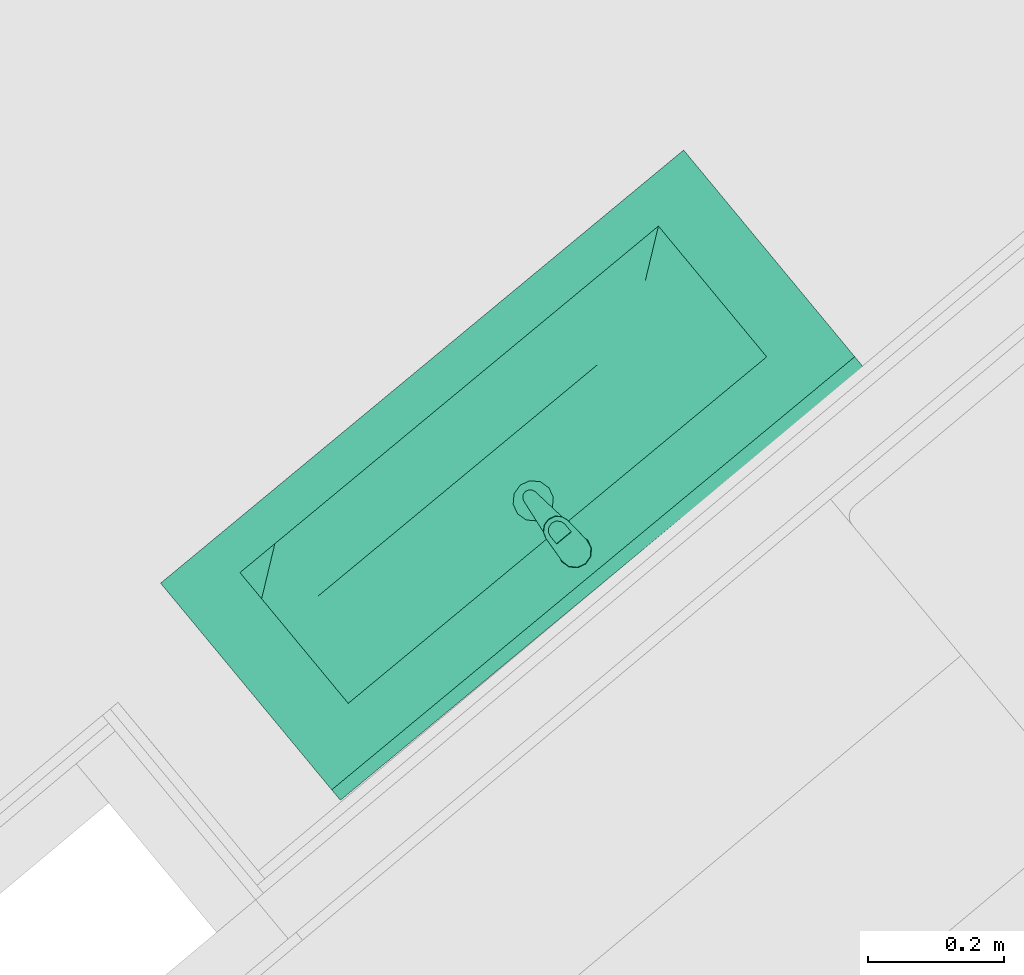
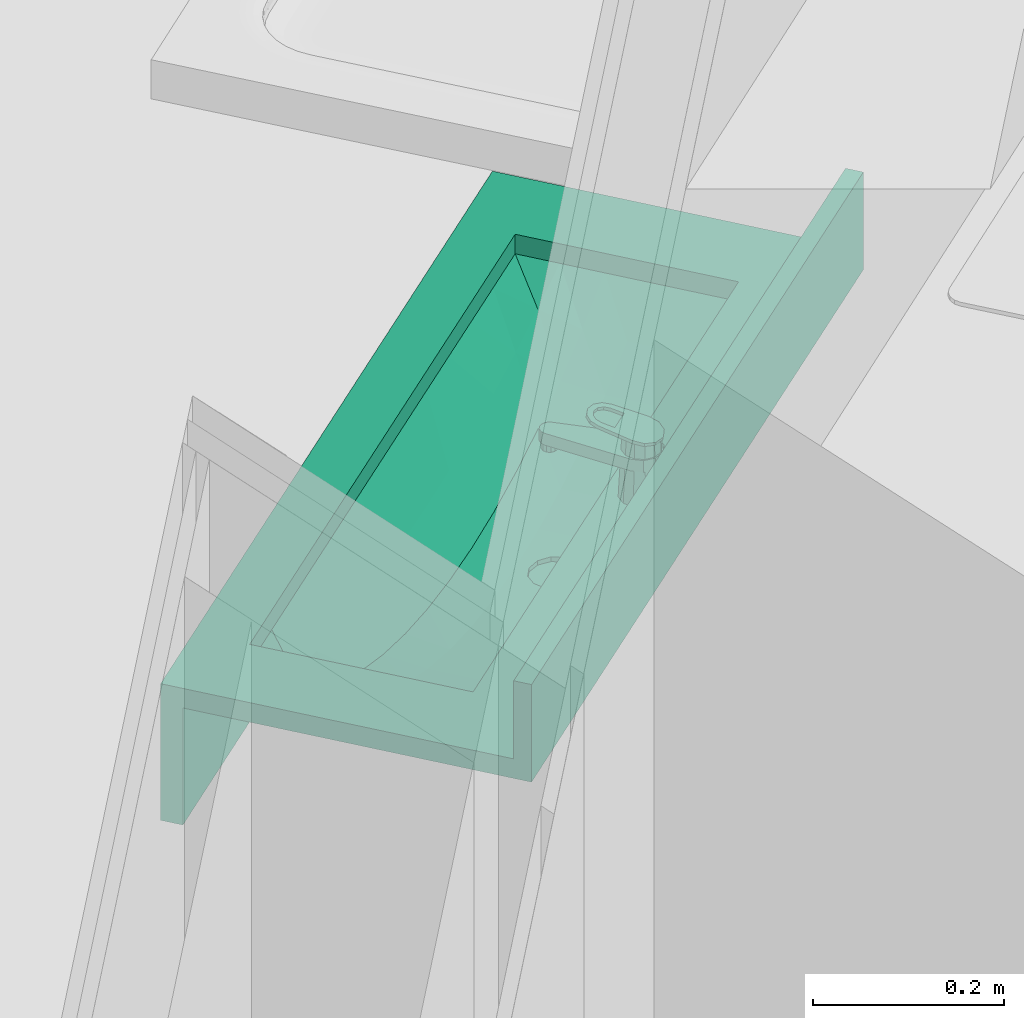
# One storey, part 47 of 50: 1 sanitary terminal.
"""IFC4 building model written with IfcOpenShell, lengths in metres."""

from ifc_helpers import new_model, entity, si_unit, converted_unit, derived_unit, direction, frame, origin_with_axes, place, context, subcontext, project, spatial, polygons, source, transform, mapped, type_object, element, save


model = new_model("IFC4")

# Units and contexts
model_context = context("Model", 3, precision=1e-05, world=origin_with_axes(), true_north=direction((0.0, 1.0)))
body_context = subcontext(model_context, "Body", "Model", "MODEL_VIEW")
ifc_project = project(units=[si_unit("LENGTHUNIT", "METRE"), si_unit("AREAUNIT", "SQUARE_METRE"), si_unit("VOLUMEUNIT", "CUBIC_METRE"), converted_unit("PLANEANGLEUNIT", "DEGREE", entity("IfcPlaneAngleMeasure", 0.0174532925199), si_unit("PLANEANGLEUNIT", "RADIAN"), dimensions=[0, 0, 0, 0, 0, 0, 0]), converted_unit("TIMEUNIT", "Year", entity("IfcTimeMeasure", 31556926.0), si_unit("TIMEUNIT", "SECOND"), dimensions=[0, 0, 1, 0, 0, 0, 0]), si_unit("MASSUNIT", "GRAM", prefix="KILO"), si_unit("THERMODYNAMICTEMPERATUREUNIT", "DEGREE_CELSIUS"), si_unit("LUMINOUSINTENSITYUNIT", "LUMEN"), si_unit("ENERGYUNIT", "JOULE", prefix="MEGA"), derived_unit("THERMALCONDUCTANCEUNIT", [(si_unit("POWERUNIT", "WATT"), 1), (si_unit("LENGTHUNIT", "METRE"), -1), (si_unit("THERMODYNAMICTEMPERATUREUNIT", "KELVIN"), -1)]), derived_unit("SPECIFICHEATCAPACITYUNIT", [(si_unit("ENERGYUNIT", "JOULE"), 1), (si_unit("MASSUNIT", "GRAM", prefix="KILO"), -1), (si_unit("THERMODYNAMICTEMPERATUREUNIT", "KELVIN"), -1)]), derived_unit("MASSDENSITYUNIT", [(si_unit("MASSUNIT", "GRAM", prefix="KILO"), 1), (si_unit("VOLUMEUNIT", "CUBIC_METRE"), -1)])], contexts=[model_context])

# Site, building, storey
site_placement = place(None, frame((-0.00153261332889, -0.00661245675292, 0.0), z_axis=(0.0, 0.0, 1.0), x_axis=(1.0, 0.0, 0.0)))
site = spatial("IfcSite", under=ifc_project, at=site_placement, Name="Site", CompositionType="ELEMENT")
building_placement = place(site_placement, origin_with_axes())
building = spatial("IfcBuilding", under=site, at=building_placement, Name="Building", CompositionType="ELEMENT")
storey_placement = place(building_placement, frame((0.0, 0.0, 2.74), z_axis=(0.0, 0.0, 1.0), x_axis=(1.0, 0.0, 0.0)))
storey = spatial("IfcBuildingStorey", under=building, at=storey_placement, Name="OG1", CompositionType="ELEMENT", Elevation=2.74)

# Sanitary terminal
sanitary_terminal_type = type_object("IfcSanitaryTerminalType", Name="Waschbecken mehrfach 26", PredefinedType="NOTDEFINED")
shared_shape = source(origin_with_axes(), body_context, "Body", "Tessellation", [
    polygons([(-0.5, 0.0, 0.875), (0.5, 0.0, 0.875), (0.5, -0.415119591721, 0.875), (-0.5, -0.415119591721, 0.875), (-0.4, -0.35255979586, 0.875), (0.4, -0.35255979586, 0.875), (0.4, -0.10255979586, 0.875), (-0.4, -0.10255979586, 0.875), (-0.5, 0.0, 0.9), (0.5, 0.0, 0.9), (0.5, -0.415119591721, 0.9), (-0.5, -0.415119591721, 0.9), (-0.4, -0.35255979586, 0.9), (0.4, -0.35255979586, 0.9), (0.4, -0.10255979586, 0.9), (-0.4, -0.10255979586, 0.9)], [[[1, 2, 3, 4], [5, 6, 7, 8]], [[1, 9, 10, 2]], [[2, 10, 11, 3]], [[3, 11, 12, 4]], [[4, 12, 9, 1]], [[13, 14, 6, 5]], [[14, 15, 7, 6]], [[15, 16, 8, 7]], [[16, 13, 5, 8]], [[11, 10, 9, 12], [13, 16, 15, 14]]], closed=True),
    polygons([(-0.5, -0.02, 0.9), (0.5, -0.02, 0.9), (0.5, -0.02, 1.0), (-0.5, -0.02, 1.0), (-0.5, 0.0, 0.9), (0.5, 0.0, 0.9), (0.5, 0.0, 1.0), (-0.5, 0.0, 1.0)], [[[1, 2, 3, 4]], [[1, 5, 6, 2]], [[2, 6, 7, 3]], [[4, 3, 7, 8]], [[5, 1, 4, 8]], [[6, 5, 8, 7]]], closed=True),
    polygons([(-0.5, -0.415119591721, 0.725), (0.5, -0.415119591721, 0.725), (0.5, -0.415119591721, 0.875), (-0.5, -0.415119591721, 0.875), (-0.5, -0.390119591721, 0.725), (0.5, -0.390119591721, 0.725), (0.5, -0.390119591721, 0.875), (-0.5, -0.390119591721, 0.875)], [[[1, 2, 3, 4]], [[1, 5, 6, 2]], [[2, 6, 7, 3]], [[4, 3, 7, 8]], [[5, 1, 4, 8]], [[6, 5, 8, 7]]], closed=True),
    polygons([(0.0, -0.18855104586, 0.775), (-0.015, -0.184531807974, 0.775589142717), (-0.0259807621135, -0.17355104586, 0.776020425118), (-0.03, -0.15855104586, 0.776178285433), (-0.0283946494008, -0.15255979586, 0.776115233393), (-0.0666666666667, -0.15255979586, 0.777618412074), (-0.0666666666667, -0.20255979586, 0.777618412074), (0.0, -0.20255979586, 0.775), (-0.015, -0.132570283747, 0.775589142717), (0.0, -0.12855104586, 0.775), (0.0, -0.10255979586, 0.775), (-0.0666666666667, -0.10255979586, 0.777618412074), (-0.0259807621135, -0.14355104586, 0.776020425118), (-0.133333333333, -0.15255979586, 0.785522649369), (-0.133333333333, -0.20255979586, 0.785522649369), (-0.0666666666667, -0.25255979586, 0.787498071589), (0.0666666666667, -0.15255979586, 0.777618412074), (0.0283946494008, -0.15255979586, 0.776115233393), (0.03, -0.15855104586, 0.776178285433), (0.0259807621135, -0.17355104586, 0.776020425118), (0.015, -0.184531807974, 0.775589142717), (0.0666666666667, -0.20255979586, 0.777618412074), (0.015, -0.132570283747, 0.775589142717), (0.0259807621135, -0.14355104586, 0.776020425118), (0.0666666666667, -0.10255979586, 0.777618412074), (0.2, -0.10255979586, 0.798864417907), (0.266666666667, -0.10255979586, 0.81791333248), (0.333333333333, -0.10255979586, 0.843086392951), (0.4, -0.10255979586, 0.875), (-0.4, -0.10255979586, 0.875), (-0.333333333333, -0.10255979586, 0.843086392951), (-0.266666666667, -0.10255979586, 0.81791333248), (-0.2, -0.10255979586, 0.798864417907), (-0.133333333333, -0.10255979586, 0.785522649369), (0.133333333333, -0.10255979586, 0.785522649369), (-0.2, -0.15255979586, 0.798864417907), (-0.2, -0.20255979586, 0.798864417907), (-0.133333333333, -0.25255979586, 0.794673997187), (0.0, -0.25255979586, 0.785118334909), (0.133333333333, -0.20255979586, 0.785522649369), (0.133333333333, -0.15255979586, 0.785522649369), (0.266666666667, -0.15255979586, 0.81791333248), (0.2, -0.15255979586, 0.798864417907), (0.333333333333, -0.15255979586, 0.843086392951), (0.4, -0.15255979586, 0.875), (-0.333333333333, -0.15255979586, 0.843086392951), (-0.4, -0.15255979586, 0.875), (-0.266666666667, -0.15255979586, 0.81791333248), (-0.266666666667, -0.20255979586, 0.81791333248), (-0.2, -0.25255979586, 0.80675915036), (-0.0666666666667, -0.30255979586, 0.828578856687), (-0.133333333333, -0.30255979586, 0.832507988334), (0.0666666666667, -0.25255979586, 0.787498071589), (0.2, -0.20255979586, 0.798864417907), (0.266666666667, -0.20255979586, 0.81791333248), (0.333333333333, -0.20255979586, 0.843086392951), (0.4, -0.20255979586, 0.875), (0.4, -0.25255979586, 0.875), (0.4, -0.30255979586, 0.875), (0.4, -0.35255979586, 0.875), (-0.4, -0.25255979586, 0.875), (-0.4, -0.20255979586, 0.875), (-0.4, -0.35255979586, 0.875), (-0.4, -0.30255979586, 0.875), (-0.333333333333, -0.20255979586, 0.843086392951), (-0.266666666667, -0.25255979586, 0.823952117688), (-0.2, -0.30255979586, 0.839076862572), (0.0, -0.30255979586, 0.827271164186), (0.133333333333, -0.25255979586, 0.794673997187), (0.2, -0.25255979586, 0.80675915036), (0.266666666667, -0.25255979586, 0.823952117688), (0.333333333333, -0.25255979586, 0.846554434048), (0.333333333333, -0.30255979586, 0.860271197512), (0.333333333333, -0.35255979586, 0.875), (-0.333333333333, -0.30255979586, 0.860271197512), (-0.333333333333, -0.25255979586, 0.846554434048), (-0.266666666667, -0.30255979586, 0.848316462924), (-0.0666666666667, -0.35255979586, 0.875), (-0.133333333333, -0.35255979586, 0.875), (-0.2, -0.35255979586, 0.875), (0.0666666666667, -0.30255979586, 0.828578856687), (-0.266666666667, -0.35255979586, 0.875), (-0.333333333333, -0.35255979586, 0.875), (0.266666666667, -0.35255979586, 0.875), (0.2, -0.35255979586, 0.875), (0.133333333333, -0.35255979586, 0.875), (0.0666666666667, -0.35255979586, 0.875), (0.0, -0.35255979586, 0.875), (0.133333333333, -0.30255979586, 0.832507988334), (0.2, -0.30255979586, 0.839076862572), (0.266666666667, -0.30255979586, 0.848316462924)], [[[1, 2, 3, 4, 5, 6, 7, 8]], [[9, 10, 11, 12, 6, 5, 13]], [[7, 6, 14, 15]], [[16, 8, 7]], [[17, 18, 19, 20, 21, 1, 8, 22]], [[10, 23, 24, 18, 17, 25, 11]], [[26, 27, 28, 29, 30, 31, 32, 33, 34, 12, 11, 25, 35]], [[6, 12, 34, 14]], [[15, 14, 36, 37]], [[38, 7, 15]], [[16, 39, 8]], [[38, 16, 7]], [[39, 22, 8]], [[40, 41, 17, 22]], [[41, 35, 25, 17]], [[42, 27, 26, 43]], [[44, 28, 27, 42]], [[45, 29, 28, 44]], [[46, 31, 30, 47]], [[48, 32, 31, 46]], [[36, 33, 32, 48]], [[14, 34, 33, 36]], [[43, 26, 35, 41]], [[37, 36, 48, 49]], [[50, 15, 37]], [[50, 38, 15]], [[51, 39, 16]], [[52, 16, 38]], [[39, 53, 22]], [[54, 43, 41, 40]], [[53, 40, 22]], [[55, 42, 43, 54]], [[56, 44, 42, 55]], [[57, 58, 59, 60, 29, 45]], [[57, 45, 44, 56]], [[61, 62, 47, 30, 63, 64]], [[65, 46, 47, 62]], [[49, 48, 46, 65]], [[66, 37, 49]], [[66, 50, 37]], [[67, 38, 50]], [[51, 68, 39]], [[52, 51, 16]], [[67, 52, 38]], [[68, 53, 39]], [[69, 54, 40]], [[53, 69, 40]], [[70, 55, 54]], [[71, 56, 55]], [[72, 58, 57]], [[73, 59, 58]], [[74, 60, 59]], [[72, 57, 56]], [[61, 65, 62]], [[63, 75, 64]], [[64, 76, 61]], [[76, 49, 65]], [[76, 66, 49]], [[77, 50, 66]], [[77, 67, 50]], [[78, 68, 51]], [[79, 51, 52]], [[80, 52, 67]], [[68, 81, 53]], [[69, 70, 54]], [[81, 69, 53]], [[70, 71, 55]], [[71, 72, 56]], [[73, 58, 72]], [[74, 59, 73]], [[80, 82, 83, 63, 60, 74, 84, 85, 86, 87, 88, 78, 79]], [[61, 76, 65]], [[63, 83, 75]], [[64, 75, 76]], [[75, 66, 76]], [[75, 77, 66]], [[82, 67, 77]], [[78, 88, 68]], [[79, 78, 51]], [[80, 79, 52]], [[82, 80, 67]], [[88, 81, 68]], [[89, 70, 69]], [[81, 89, 69]], [[90, 71, 70]], [[91, 72, 71]], [[91, 73, 72]], [[84, 74, 73]], [[83, 82, 77]], [[85, 84, 91]], [[86, 85, 90]], [[87, 86, 89]], [[88, 87, 81]], [[83, 77, 75]], [[89, 90, 70]], [[87, 89, 81]], [[90, 91, 71]], [[84, 73, 91]], [[85, 91, 90]], [[86, 90, 89]]], closed=False),
    polygons([(0.03, -0.15855104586, 0.776178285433), (0.0259807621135, -0.17355104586, 0.776020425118), (0.0259807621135, -0.17355104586, 0.77), (0.03, -0.15855104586, 0.77), (0.015, -0.184531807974, 0.775589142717), (0.015, -0.184531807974, 0.77), (0.0, -0.12855104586, 0.77), (0.015, -0.132570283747, 0.77), (0.0259807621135, -0.14355104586, 0.77), (0.0, -0.18855104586, 0.77), (-0.015, -0.184531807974, 0.77), (-0.0259807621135, -0.17355104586, 0.77), (-0.03, -0.15855104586, 0.77), (-0.0259807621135, -0.14355104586, 0.77), (-0.015, -0.132570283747, 0.77), (0.0259807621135, -0.14355104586, 0.776020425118), (0.0, -0.18855104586, 0.775), (0.0, -0.12855104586, 0.775), (0.015, -0.132570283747, 0.775589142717), (-0.015, -0.184531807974, 0.775589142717), (-0.0259807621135, -0.17355104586, 0.776020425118), (-0.03, -0.15855104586, 0.776178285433), (-0.0259807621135, -0.14355104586, 0.776020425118), (-0.015, -0.132570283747, 0.775589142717)], [[[1, 2, 3, 4]], [[2, 5, 6, 3]], [[7, 8, 9, 4, 3, 6, 10, 11, 12, 13, 14, 15]], [[16, 1, 4, 9]], [[5, 17, 10, 6]], [[18, 19, 8, 7]], [[19, 16, 9, 8]], [[17, 20, 11, 10]], [[20, 21, 12, 11]], [[21, 22, 13, 12]], [[22, 23, 14, 13]], [[23, 24, 15, 14]], [[24, 18, 7, 15]]], closed=False),
    polygons([(0.0125, -0.0409091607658, 0.9), (0.0, -0.0375597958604, 0.9), (0.0, -0.0413578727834, 0.975961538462), (0.0105873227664, -0.0442220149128, 0.976507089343), (0.0216506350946, -0.0500597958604, 0.9), (0.025, -0.0625597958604, 0.9), (0.0216506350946, -0.0750597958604, 0.9), (0.0125, -0.084210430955, 0.9), (0.0, -0.0875597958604, 0.9), (-0.0125, -0.084210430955, 0.9), (-0.0216506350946, -0.0750597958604, 0.9), (-0.025, -0.0625597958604, 0.9), (-0.0216506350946, -0.0500597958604, 0.9), (-0.0125, -0.0409091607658, 0.9), (-0.0105873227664, -0.0442220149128, 0.976507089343), (-0.0182735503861, -0.0520095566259, 0.977990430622), (-0.021, -0.0625597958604, 0.98), (-0.0181003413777, -0.0730100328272, 0.981990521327), (-0.0104141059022, -0.0805975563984, 0.983435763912), (0.0, -0.0833616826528, 0.983962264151), (0.0104141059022, -0.0805975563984, 0.983435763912), (0.0181003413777, -0.0730100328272, 0.981990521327), (0.021, -0.0625597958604, 0.98), (0.0182735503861, -0.0520095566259, 0.977990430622)], [[[1, 2, 3, 4]], [[1, 5, 6, 7, 8, 9, 10, 11, 12, 13, 14, 2]], [[2, 14, 15, 3]], [[4, 3, 15, 16, 17, 18, 19, 20, 21, 22, 23, 24]], [[5, 1, 4, 24]], [[6, 5, 24, 23]], [[7, 6, 23, 22]], [[8, 7, 22, 21]], [[9, 8, 21, 20]], [[10, 9, 20, 19]], [[11, 10, 19, 18]], [[12, 11, 18, 17]], [[13, 12, 17, 16]], [[14, 13, 16, 15]]], closed=True),
    polygons([(0.009, -0.16555979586, 0.935), (0.00779422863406, -0.16105979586, 0.935), (0.00779422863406, -0.16105979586, 0.945), (0.009, -0.16555979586, 0.945), (0.00779422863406, -0.17005979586, 0.935), (0.0045, -0.173354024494, 0.935), (0.0, -0.17455979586, 0.935), (-0.0045, -0.173354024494, 0.935), (-0.00779422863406, -0.17005979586, 0.935), (-0.009, -0.16555979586, 0.935), (-0.00779422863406, -0.16105979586, 0.935), (-0.0045, -0.157765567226, 0.935), (0.0, -0.15655979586, 0.935), (0.0045, -0.157765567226, 0.935), (0.0045, -0.157765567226, 0.945), (0.0, -0.15655979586, 0.945), (-0.0045, -0.157765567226, 0.945), (-0.00779422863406, -0.16105979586, 0.945), (-0.009, -0.16555979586, 0.945), (-0.00779422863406, -0.17005979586, 0.945), (-0.0045, -0.173354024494, 0.945), (0.0, -0.17455979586, 0.945), (0.0045, -0.173354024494, 0.945), (0.00779422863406, -0.17005979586, 0.945)], [[[1, 2, 3, 4]], [[1, 5, 6, 7, 8, 9, 10, 11, 12, 13, 14, 2]], [[2, 14, 15, 3]], [[4, 3, 15, 16, 17, 18, 19, 20, 21, 22, 23, 24]], [[5, 1, 4, 24]], [[6, 5, 24, 23]], [[7, 6, 23, 22]], [[8, 7, 22, 21]], [[9, 8, 21, 20]], [[10, 9, 20, 19]], [[11, 10, 19, 18]], [[12, 11, 18, 17]], [[13, 12, 17, 16]], [[14, 13, 16, 15]]], closed=True),
    polygons([(-0.0128717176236, -0.0423034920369, 0.96), (-0.021727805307, -0.0523665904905, 0.96), (-0.0238054, -0.0656096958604, 0.96), (-0.010911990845, -0.166948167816, 0.96), (-0.00902887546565, -0.17184299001, 0.96), (-0.00509332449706, -0.175309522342, 0.96), (3.62679860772e-08, -0.176559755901, 0.96), (0.00509338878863, -0.175309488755, 0.96), (0.00902891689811, -0.171842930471, 0.96), (0.010912, -0.16694809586, 0.96), (0.0238053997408, -0.0656096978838, 0.96), (0.0217278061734, -0.0523665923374, 0.96), (0.0128717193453, -0.042303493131, 0.96), (1.01998896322e-09, -0.0385598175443, 0.96), (0.011, -0.0435072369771, 0.96), (0.0190525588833, -0.0515597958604, 0.96), (0.022, -0.0625597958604, 0.96), (0.0190525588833, -0.0735597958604, 0.96), (0.011, -0.0816123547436, 0.96), (0.0, -0.0845597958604, 0.96), (-0.011, -0.0816123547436, 0.96), (-0.0190525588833, -0.0735597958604, 0.96), (-0.022, -0.0625597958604, 0.96), (-0.0190525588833, -0.0515597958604, 0.96), (-0.011, -0.0435072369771, 0.96), (0.0, -0.0405597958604, 0.96), (-0.021727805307, -0.0523665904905, 0.945), (-0.0128717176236, -0.0423034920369, 0.945), (-0.0238054, -0.0656096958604, 0.945), (-0.010911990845, -0.166948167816, 0.945), (-0.00902887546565, -0.17184299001, 0.945), (-0.00509332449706, -0.175309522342, 0.945), (3.62679860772e-08, -0.176559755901, 0.945), (0.00509338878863, -0.175309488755, 0.945), (0.00902891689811, -0.171842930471, 0.945), (0.010912, -0.16694809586, 0.945), (0.0238053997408, -0.0656096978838, 0.945), (0.0217278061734, -0.0523665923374, 0.945), (0.0128717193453, -0.042303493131, 0.945), (1.01998896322e-09, -0.0385598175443, 0.945), (0.011375, -0.0428577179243, 0.945), (0.0197020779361, -0.0511847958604, 0.945), (0.02275, -0.0625597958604, 0.945), (0.0197020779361, -0.0739347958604, 0.945), (0.011375, -0.0822618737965, 0.945), (0.0, -0.0853097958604, 0.945), (-0.011375, -0.0822618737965, 0.945), (-0.0197020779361, -0.0739347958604, 0.945), (-0.02275, -0.0625597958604, 0.945), (-0.0197020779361, -0.0511847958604, 0.945), (-0.011375, -0.0428577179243, 0.945), (0.0, -0.0398097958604, 0.945)], [[[1, 2, 3, 4, 5, 6, 7, 8, 9, 10, 11, 12, 13, 14], [15, 16, 17, 18, 19, 20, 21, 22, 23, 24, 25, 26]], [[27, 2, 1, 28]], [[29, 3, 2, 27]], [[30, 4, 3, 29]], [[31, 5, 4, 30]], [[32, 6, 5, 31]], [[33, 7, 6, 32]], [[34, 8, 7, 33]], [[35, 9, 8, 34]], [[36, 10, 9, 35]], [[37, 11, 10, 36]], [[38, 12, 11, 37]], [[39, 13, 12, 38]], [[40, 14, 13, 39]], [[28, 1, 14, 40]], [[41, 42, 16, 15]], [[42, 43, 17, 16]], [[43, 44, 18, 17]], [[44, 45, 19, 18]], [[45, 46, 20, 19]], [[21, 20, 46, 47]], [[22, 21, 47, 48]], [[23, 22, 48, 49]], [[24, 23, 49, 50]], [[25, 24, 50, 51]], [[51, 52, 26, 25]], [[52, 41, 15, 26]], [[33, 32, 31, 30, 29, 27, 28, 40, 39, 38, 37, 36, 35, 34], [45, 44, 43, 42, 41, 52, 51, 50, 49, 48, 47, 46]]], closed=True),
    polygons([(0.023893, -0.0642523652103, 0.980322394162), (0.0212964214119, -0.0517850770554, 0.977947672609), (0.0212964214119, -0.0510366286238, 0.981877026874), (0.023893, -0.0635039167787, 0.984251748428), (0.0209459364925, -0.104396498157, 0.987968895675), (0.0176631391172, -0.114074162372, 0.989812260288), (0.0100614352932, -0.121023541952, 0.991135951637), (-4.42652908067e-07, -0.123545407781, 0.991616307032), (-0.0100622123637, -0.121023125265, 0.991135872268), (-0.0176636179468, -0.114073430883, 0.989812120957), (-0.020946, -0.104395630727, 0.987968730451), (-0.023893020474, -0.0642520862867, 0.980322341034), (-0.0212962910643, -0.0517848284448, 0.977947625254), (-0.0124716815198, -0.0424685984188, 0.976173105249), (1.42337785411e-07, -0.0390278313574, 0.975517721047), (0.0124719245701, -0.0424687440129, 0.976173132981), (0.014, -0.0881005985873, 0.984864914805), (-0.014, -0.0881005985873, 0.984864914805), (-0.014, -0.102916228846, 0.987686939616), (-0.012124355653, -0.109792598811, 0.988996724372), (-0.007, -0.114826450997, 0.989955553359), (0.0, -0.116668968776, 0.990306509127), (0.007, -0.114826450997, 0.989955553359), (0.012124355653, -0.109792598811, 0.988996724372), (0.014, -0.102916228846, 0.987686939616), (0.0124719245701, -0.0417202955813, 0.980102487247), (1.42337785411e-07, -0.0382793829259, 0.979447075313), (-0.0124716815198, -0.0417201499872, 0.980102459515), (-0.0212962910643, -0.0510363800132, 0.98187697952), (-0.023893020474, -0.0635036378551, 0.984251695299), (-0.020946, -0.103647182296, 0.991898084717), (-0.0176636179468, -0.113324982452, 0.993741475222), (-0.0100622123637, -0.120274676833, 0.995065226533), (-4.42652908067e-07, -0.122796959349, 0.995545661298), (0.0100614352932, -0.120275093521, 0.995065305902), (0.0176631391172, -0.11332571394, 0.993741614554), (0.0209459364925, -0.103648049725, 0.991898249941), (0.014, -0.0873521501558, 0.988794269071), (0.014, -0.102167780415, 0.991616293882), (0.012124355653, -0.10904415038, 0.992926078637), (0.007, -0.114078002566, 0.993884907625), (0.0, -0.115920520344, 0.994235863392), (-0.007, -0.114078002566, 0.993884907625), (-0.012124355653, -0.10904415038, 0.992926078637), (-0.014, -0.102167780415, 0.991616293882), (-0.014, -0.0873521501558, 0.988794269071)], [[[1, 2, 3, 4]], [[1, 5, 6, 7, 8, 9, 10, 11, 12, 13, 14, 15, 16, 2], [17, 18, 19, 20, 21, 22, 23, 24, 25]], [[2, 16, 26, 3]], [[4, 3, 26, 27, 28, 29, 30, 31, 32, 33, 34, 35, 36, 37], [38, 39, 40, 41, 42, 43, 44, 45, 46]], [[5, 1, 4, 37]], [[6, 5, 37, 36]], [[7, 6, 36, 35]], [[8, 7, 35, 34]], [[9, 8, 34, 33]], [[10, 9, 33, 32]], [[11, 10, 32, 31]], [[12, 11, 31, 30]], [[13, 12, 30, 29]], [[14, 13, 29, 28]], [[15, 14, 28, 27]], [[16, 15, 27, 26]], [[18, 17, 38, 46]], [[19, 18, 46, 45]], [[20, 19, 45, 44]], [[21, 20, 44, 43]], [[22, 21, 43, 42]], [[23, 22, 42, 41]], [[24, 23, 41, 40]], [[25, 24, 40, 39]], [[17, 25, 39, 38]]], closed=True),
])
sanitary_terminal_placement = place(storey_placement, frame((7.60632962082, 24.105104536, 0.145), z_axis=(0.0, 0.0, 1.0), x_axis=(-0.770210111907, -0.637790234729, 0.0)))
element("IfcSanitaryTerminal", 1, at=sanitary_terminal_placement, inside=storey, type_object=sanitary_terminal_type, Name="Objekt-0009", PredefinedType="NOTDEFINED", context=body_context, shape_type="MappedRepresentation", body=[
    mapped(shared_shape, transform((0.0, 0.0, 0.0))),
])

save(model, "model.ifc")
